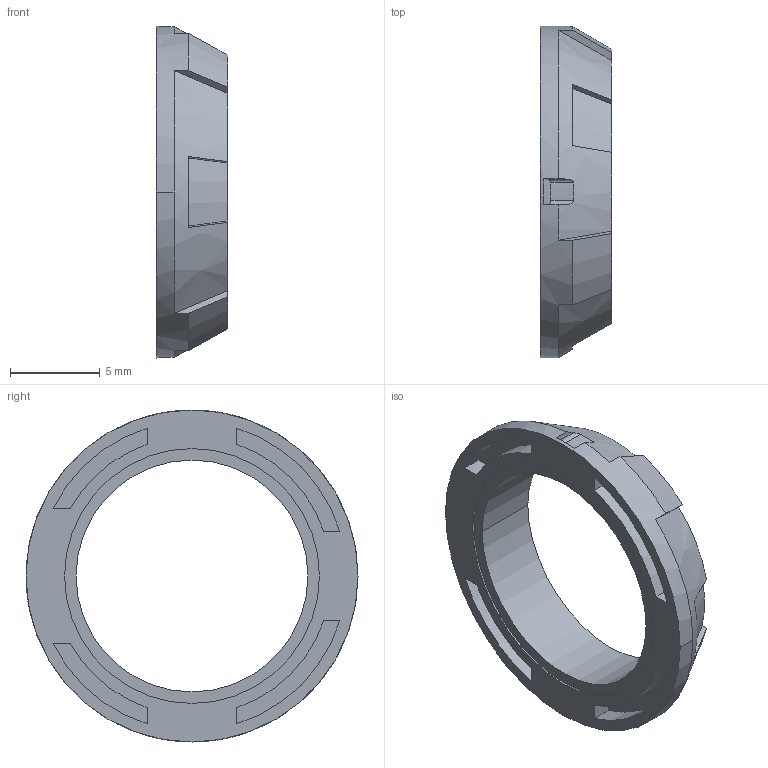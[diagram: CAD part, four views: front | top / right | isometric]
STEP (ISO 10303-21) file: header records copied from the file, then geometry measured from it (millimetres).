
FILE_DESCRIPTION((''),'2;1');
FILE_NAME('00019841','2020-10-09T07:57:47',('CBrey'),(''),'CREO PARAMETRIC BY PTC INC, 2018300','CREO PARAMETRIC BY PTC INC, 2018300','');
FILE_SCHEMA(('AP242_MANAGED_MODEL_BASED_3D_ENGINEERING_MIM_LF { 1 0 10303 442 1 1 4 }'));
Length unit declared in the file: millimetre
Products named in the file (1): 00019841
Bounding box: 4 x 18.5 x 18.5 mm (x, y, z)
Volume: 370.9 mm3; surface area: 697.9 mm2
Topology: 1 solids, 1 shells, 69 faces, 182 edges, 120 vertices
Faces by surface type: plane 34, cylinder 22, cone 13
Entity records: 2841 total; most frequent: CARTESIAN_POINT 435, DIRECTION 376, ORIENTED_EDGE 364, PRESENTATION_STYLE_ASSIGNMENT 183, STYLED_ITEM 183, CURVE_STYLE 182, EDGE_CURVE 182, AXIS2_PLACEMENT_3D 133
